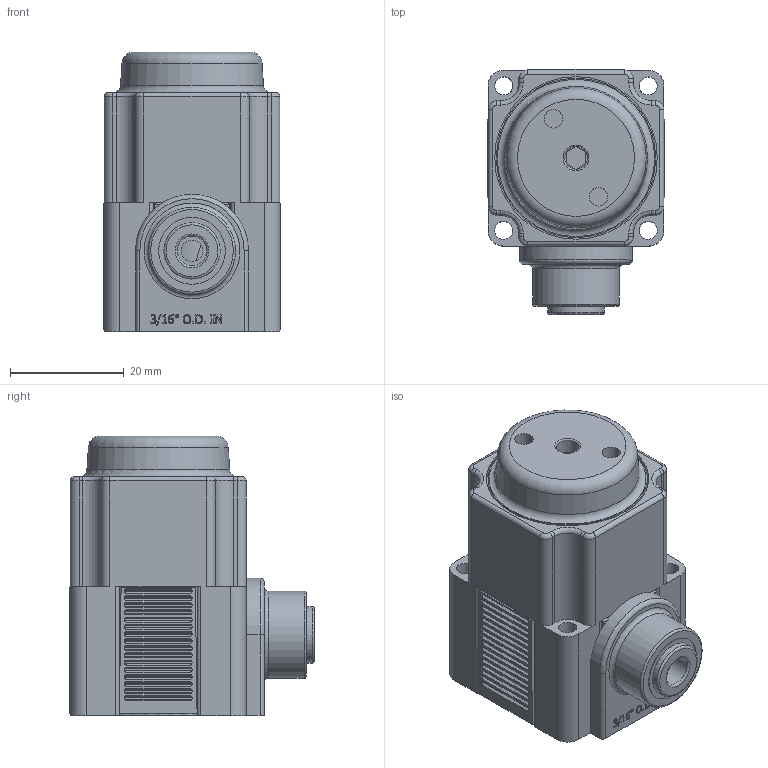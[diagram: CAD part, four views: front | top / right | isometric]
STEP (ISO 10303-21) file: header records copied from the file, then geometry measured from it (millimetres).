
FILE_DESCRIPTION(/* description */ (''),/* implementation_level */ '2;1');
FILE_NAME(/* name */ 'K:\Normteile INVENTOR\Air-Logic\Regulators\PR7000\PR 7___ 4 Push-In Fitting for 3''16 O.D. Tube In.igs.ipt.stp',/* time_stamp */ '2020-05-27T10:54:01+02:00',/* author */ ('Paul'),/* organization */ (''),/* preprocessor_version */ 'ST-DEVELOPER v18',/* originating_system */ 'Autodesk Inventor 2020',/* authorisation */ '');
FILE_SCHEMA (('AUTOMOTIVE_DESIGN { 1 0 10303 214 3 1 1 }'));
Length unit declared in the file: inch
Products named in the file (1): PR 7___ 4 Push-In Fitting for 3'16 O.D. Tube In.igs
Bounding box: 31.19 x 43.08 x 49.15 mm (x, y, z)
Volume: 41792.8 mm3; surface area: 13224.6 mm2
Topology: 1 solids, 1 shells, 733 faces, 1903 edges, 1246 vertices
Faces by surface type: plane 377, cylinder 253, bspline 77, torus 24, cone 2
Full cylindrical faces by diameter (mm): 3.175 x4, 3.226 x2, 3.785 x1, 4.013 x1, 5.207 x1, 6.045 x1, 9.169 x1, 9.398 x1, 9.906 x1, 11.735 x1, 12.903 x1, 15.291 x1, 26.264 x1, 28.047 x1, 28.575 x1
Entity records: 25252 total; most frequent: CARTESIAN_POINT 6363, ORIENTED_EDGE 3806, DIRECTION 3763, EDGE_CURVE 1903, AXIS2_PLACEMENT_3D 1417, VERTEX_POINT 1246, LINE 929, VECTOR 929
